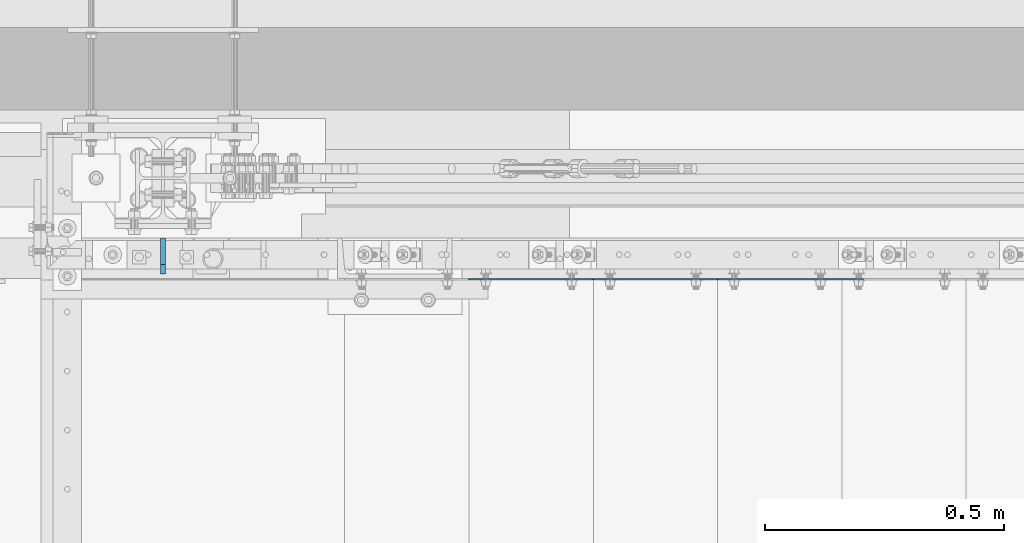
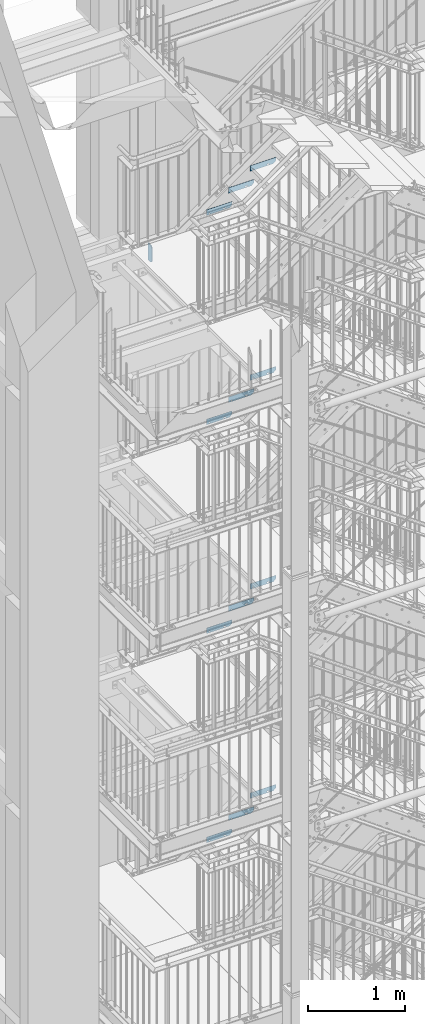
# One storey, part 194 of 831: 13 plates, 26 openings.
"""IFC2X3 building model written with IfcOpenShell, lengths in millimetres."""

from ifc_helpers import new_model, entity, si_unit, converted_unit, point, frame, frame_2d, origin, origin_with_axes, origin_2d_with_axis, place, context, project, spatial, polyline, circle_curve, line_curve, trimmed, segment, composite_curve, circle, outline, extrude, material, layer, layer_set, element, save


model = new_model("IFC2X3")

# Units and contexts
model_context = context("Model", 3, precision=1e-09, world=origin_with_axes())
ifc_project = project(units=[si_unit("LENGTHUNIT", "METRE", prefix="MILLI"), si_unit("AREAUNIT", "SQUARE_METRE"), si_unit("VOLUMEUNIT", "CUBIC_METRE"), converted_unit("PLANEANGLEUNIT", "DEGREE", entity("IfcPlaneAngleMeasure", 0.01745329), si_unit("PLANEANGLEUNIT", "RADIAN"), dimensions=[0, 0, 0, 0, 0, 0, 0])], contexts=[model_context])

# Site, building, storey
site_placement = place(None, origin_with_axes())
site = spatial("IfcSite", under=ifc_project, at=site_placement, Name="Site", CompositionType="ELEMENT")
building_placement = place(site_placement, origin_with_axes())
building = spatial("IfcBuilding", under=site, at=building_placement, Name="Struktur 1", CompositionType="ELEMENT")
storey_placement = place(building_placement, origin_with_axes())
storey = spatial("IfcBuildingStorey", under=building, at=storey_placement, Name="Default Storey", CompositionType="ELEMENT", Elevation=0.0)

# Plate, openings
ifc_material = material(Name="S235JR")
ifc_layer_1 = layer(ifc_material, 3.0)
ifc_layer_set_1 = layer_set([ifc_layer_1], Name="S235JR")
plate_1_placement = place(None, frame((6016.713402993, 7306.736971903, 10554.9285719), z_axis=(0.0, -1.0, 0.0), x_axis=(0.0, 0.0, -1.0)))
plate_1 = element("IfcPlate", 1, at=plate_1_placement, inside=storey, material=ifc_layer_set_1, Name="Grate_Step#16", ObjectType="Grate_Step#16", context=model_context, shape_type="SweptSolid", body=[
    extrude(outline(polyline([(0.0, 0.0), (70.0, 0.0), (70.0, 275.0), (40.0, 305.0), (0.0, 305.0), (0.0, 0.0)])), origin_with_axes(), (0.0, 0.0, 1.0), 3.0),
])
opening_1_placement = place(plate_1_placement, frame((55.0, 35.0, 3.5), z_axis=(0.0, 0.0, -1.0), x_axis=(0.0, 1.0, 0.0)))
element("IfcOpeningElement", 2, at=opening_1_placement, cuts=plate_1, ObjectType="Opening", context=model_context, shape_type="SweptSolid", body=[
    extrude(circle(Radius=7.001, at=origin_2d_with_axis()), origin(), (0.0, 0.0, 1.0), 4.0),
])
opening_2_placement = place(plate_1_placement, frame((55.0, 215.0, 3.5), z_axis=(0.0, 0.0, -1.0), x_axis=(0.0, 1.0, 0.0)))
element("IfcOpeningElement", 3, at=opening_2_placement, cuts=plate_1, ObjectType="Opening", context=model_context, shape_type="SweptSolid", body=[
    extrude(outline(composite_curve([segment(trimmed(line_curve((-9.5, -7.001), (1.0, 0.0), 19.0), [point((-9.5, -7.001))], [point((9.5, -7.001))], True, "CARTESIAN"), True, "CONTINUOUS"), segment(trimmed(circle_curve(frame_2d((9.5, 0.0), x_axis=(1.0, 0.0)), 7.001), [point((9.5, -7.001))], [point((9.5, 7.001))], True, "CARTESIAN"), True, "CONTINUOUS"), segment(trimmed(line_curve((9.5, 7.001), (-1.0, 0.0), 19.0), [point((9.5, 7.001))], [point((-9.5, 7.001))], True, "CARTESIAN"), True, "CONTINUOUS"), segment(trimmed(circle_curve(frame_2d((-9.5, 0.0), x_axis=(1.0, 0.0)), 7.001), [point((-9.5, 7.001))], [point((-9.5, -7.001))], True, "CARTESIAN"), True, "CONTINUOUS")], self_intersect=False)), origin(), (0.0, 0.0, 1.0), 4.0),
])

plate_2_placement = place(None, frame((5496.713402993, 7306.736971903, 10179.6428577), z_axis=(0.0, -1.0, 0.0), x_axis=(0.0, 0.0, -1.0)))
plate_2 = element("IfcPlate", 4, at=plate_2_placement, inside=storey, material=ifc_layer_set_1, Name="Grate_Step#2", ObjectType="Grate_Step#2", context=model_context, shape_type="SweptSolid", body=[
    extrude(outline(polyline([(0.0, 0.0), (70.0, 0.0), (70.0, 275.0), (40.0, 305.0), (0.0, 305.0), (0.0, 0.0)])), origin_with_axes(), (0.0, 0.0, 1.0), 3.0),
])
opening_3_placement = place(plate_2_placement, frame((55.0, 215.0, 3.5), z_axis=(0.0, 0.0, -1.0), x_axis=(0.0, 1.0, 0.0)))
element("IfcOpeningElement", 5, at=opening_3_placement, cuts=plate_2, ObjectType="Opening", context=model_context, shape_type="SweptSolid", body=[
    extrude(outline(composite_curve([segment(trimmed(line_curve((-9.5, -7.001), (1.0, 0.0), 19.0), [point((-9.5, -7.001))], [point((9.5, -7.001))], True, "CARTESIAN"), True, "CONTINUOUS"), segment(trimmed(circle_curve(frame_2d((9.5, 0.0), x_axis=(1.0, 0.0)), 7.001), [point((9.5, -7.001))], [point((9.5, 7.001))], True, "CARTESIAN"), True, "CONTINUOUS"), segment(trimmed(line_curve((9.5, 7.001), (-1.0, 0.0), 19.0), [point((9.5, 7.001))], [point((-9.5, 7.001))], True, "CARTESIAN"), True, "CONTINUOUS"), segment(trimmed(circle_curve(frame_2d((-9.5, 0.0), x_axis=(1.0, 0.0)), 7.001), [point((-9.5, 7.001))], [point((-9.5, -7.001))], True, "CARTESIAN"), True, "CONTINUOUS")], self_intersect=False)), origin(), (0.0, 0.0, 1.0), 4.0),
])
opening_4_placement = place(plate_2_placement, frame((55.0, 35.0, 3.5), z_axis=(0.0, 0.0, -1.0), x_axis=(0.0, 1.0, 0.0)))
element("IfcOpeningElement", 6, at=opening_4_placement, cuts=plate_2, ObjectType="Opening", context=model_context, shape_type="SweptSolid", body=[
    extrude(circle(Radius=7.001, at=origin_2d_with_axis()), origin(), (0.0, 0.0, 1.0), 4.0),
])

plate_3_placement = place(None, frame((5756.713402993, 7306.736971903, 10367.2857148), z_axis=(0.0, -1.0, 0.0), x_axis=(0.0, 0.0, -1.0)))
plate_3 = element("IfcPlate", 7, at=plate_3_placement, inside=storey, material=ifc_layer_set_1, Name="Grate_Step#9", ObjectType="Grate_Step#9", context=model_context, shape_type="SweptSolid", body=[
    extrude(outline(polyline([(0.0, 0.0), (70.0, 0.0), (70.0, 275.0), (40.0, 305.0), (0.0, 305.0), (0.0, 0.0)])), origin_with_axes(), (0.0, 0.0, 1.0), 3.0),
])
opening_5_placement = place(plate_3_placement, frame((55.0, 215.0, 3.5), z_axis=(0.0, 0.0, -1.0), x_axis=(0.0, 1.0, 0.0)))
element("IfcOpeningElement", 8, at=opening_5_placement, cuts=plate_3, ObjectType="Opening", context=model_context, shape_type="SweptSolid", body=[
    extrude(outline(composite_curve([segment(trimmed(line_curve((-9.5, -7.001), (1.0, 0.0), 19.0), [point((-9.5, -7.001))], [point((9.5, -7.001))], True, "CARTESIAN"), True, "CONTINUOUS"), segment(trimmed(circle_curve(frame_2d((9.5, 0.0), x_axis=(1.0, 0.0)), 7.001), [point((9.5, -7.001))], [point((9.5, 7.001))], True, "CARTESIAN"), True, "CONTINUOUS"), segment(trimmed(line_curve((9.5, 7.001), (-1.0, 0.0), 19.0), [point((9.5, 7.001))], [point((-9.5, 7.001))], True, "CARTESIAN"), True, "CONTINUOUS"), segment(trimmed(circle_curve(frame_2d((-9.5, 0.0), x_axis=(1.0, 0.0)), 7.001), [point((-9.5, 7.001))], [point((-9.5, -7.001))], True, "CARTESIAN"), True, "CONTINUOUS")], self_intersect=False)), origin(), (0.0, 0.0, 1.0), 4.0),
])
opening_6_placement = place(plate_3_placement, frame((55.0, 35.0, 3.5), z_axis=(0.0, 0.0, -1.0), x_axis=(0.0, 1.0, 0.0)))
element("IfcOpeningElement", 9, at=opening_6_placement, cuts=plate_3, ObjectType="Opening", context=model_context, shape_type="SweptSolid", body=[
    extrude(circle(Radius=7.001, at=origin_2d_with_axis()), origin(), (0.0, 0.0, 1.0), 4.0),
])

plate_4_placement = place(None, frame((6016.713402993, 7306.736971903, 7924.0), z_axis=(0.0, -1.0, 0.0), x_axis=(0.0, 0.0, -1.0)))
plate_4 = element("IfcPlate", 10, at=plate_4_placement, inside=storey, material=ifc_layer_set_1, Name="Grate_Step#16", ObjectType="Grate_Step#16", context=model_context, shape_type="SweptSolid", body=[
    extrude(outline(polyline([(0.0, 0.0), (70.0, 0.0), (70.0, 275.0), (40.0, 305.0), (0.0, 305.0), (0.0, 0.0)])), origin_with_axes(), (0.0, 0.0, 1.0), 3.0),
])
opening_7_placement = place(plate_4_placement, frame((55.0, 215.0, 3.5), z_axis=(0.0, 0.0, -1.0), x_axis=(0.0, 1.0, 0.0)))
element("IfcOpeningElement", 11, at=opening_7_placement, cuts=plate_4, ObjectType="Opening", context=model_context, shape_type="SweptSolid", body=[
    extrude(outline(composite_curve([segment(trimmed(line_curve((-9.5, -7.001), (1.0, 0.0), 19.0), [point((-9.5, -7.001))], [point((9.5, -7.001))], True, "CARTESIAN"), True, "CONTINUOUS"), segment(trimmed(circle_curve(frame_2d((9.5, 0.0), x_axis=(1.0, 0.0)), 7.001), [point((9.5, -7.001))], [point((9.5, 7.001))], True, "CARTESIAN"), True, "CONTINUOUS"), segment(trimmed(line_curve((9.5, 7.001), (-1.0, 0.0), 19.0), [point((9.5, 7.001))], [point((-9.5, 7.001))], True, "CARTESIAN"), True, "CONTINUOUS"), segment(trimmed(circle_curve(frame_2d((-9.5, 0.0), x_axis=(1.0, 0.0)), 7.001), [point((-9.5, 7.001))], [point((-9.5, -7.001))], True, "CARTESIAN"), True, "CONTINUOUS")], self_intersect=False)), origin(), (0.0, 0.0, 1.0), 4.0),
])
opening_8_placement = place(plate_4_placement, frame((55.0, 35.0, 3.5), z_axis=(0.0, 0.0, -1.0), x_axis=(0.0, 1.0, 0.0)))
element("IfcOpeningElement", 12, at=opening_8_placement, cuts=plate_4, ObjectType="Opening", context=model_context, shape_type="SweptSolid", body=[
    extrude(circle(Radius=7.001, at=origin_2d_with_axis()), origin(), (0.0, 0.0, 1.0), 4.0),
])

plate_5_placement = place(None, frame((5496.713402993, 7306.736971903, 7548.0), z_axis=(0.0, -1.0, 0.0), x_axis=(0.0, 0.0, -1.0)))
plate_5 = element("IfcPlate", 13, at=plate_5_placement, inside=storey, material=ifc_layer_set_1, Name="Grate_Step#2", ObjectType="Grate_Step#2", context=model_context, shape_type="SweptSolid", body=[
    extrude(outline(polyline([(0.0, 0.0), (70.0, 0.0), (70.0, 275.0), (40.0, 305.0), (0.0, 305.0), (0.0, 0.0)])), origin_with_axes(), (0.0, 0.0, 1.0), 3.0),
])
opening_9_placement = place(plate_5_placement, frame((55.0, 35.0, 3.5), z_axis=(0.0, 0.0, -1.0), x_axis=(0.0, 1.0, 0.0)))
element("IfcOpeningElement", 14, at=opening_9_placement, cuts=plate_5, ObjectType="Opening", context=model_context, shape_type="SweptSolid", body=[
    extrude(circle(Radius=7.001, at=origin_2d_with_axis()), origin(), (0.0, 0.0, 1.0), 4.0),
])
opening_10_placement = place(plate_5_placement, frame((55.0, 215.0, 3.5), z_axis=(0.0, 0.0, -1.0), x_axis=(0.0, 1.0, 0.0)))
element("IfcOpeningElement", 15, at=opening_10_placement, cuts=plate_5, ObjectType="Opening", context=model_context, shape_type="SweptSolid", body=[
    extrude(outline(composite_curve([segment(trimmed(line_curve((-9.5, -7.001), (1.0, 0.0), 19.0), [point((-9.5, -7.001))], [point((9.5, -7.001))], True, "CARTESIAN"), True, "CONTINUOUS"), segment(trimmed(circle_curve(frame_2d((9.5, 0.0), x_axis=(1.0, 0.0)), 7.001), [point((9.5, -7.001))], [point((9.5, 7.001))], True, "CARTESIAN"), True, "CONTINUOUS"), segment(trimmed(line_curve((9.5, 7.001), (-1.0, 0.0), 19.0), [point((9.5, 7.001))], [point((-9.5, 7.001))], True, "CARTESIAN"), True, "CONTINUOUS"), segment(trimmed(circle_curve(frame_2d((-9.5, 0.0), x_axis=(1.0, 0.0)), 7.001), [point((-9.5, 7.001))], [point((-9.5, -7.001))], True, "CARTESIAN"), True, "CONTINUOUS")], self_intersect=False)), origin(), (0.0, 0.0, 1.0), 4.0),
])

plate_6_placement = place(None, frame((5756.713402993, 7306.736971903, 7736.0), z_axis=(0.0, -1.0, 0.0), x_axis=(0.0, 0.0, -1.0)))
plate_6 = element("IfcPlate", 16, at=plate_6_placement, inside=storey, material=ifc_layer_set_1, Name="Grate_Step#9", ObjectType="Grate_Step#9", context=model_context, shape_type="SweptSolid", body=[
    extrude(outline(polyline([(0.0, 0.0), (70.0, 0.0), (70.0, 275.0), (40.0, 305.0), (0.0, 305.0), (0.0, 0.0)])), origin_with_axes(), (0.0, 0.0, 1.0), 3.0),
])
opening_11_placement = place(plate_6_placement, frame((55.0, 215.0, 3.5), z_axis=(0.0, 0.0, -1.0), x_axis=(0.0, 1.0, 0.0)))
element("IfcOpeningElement", 17, at=opening_11_placement, cuts=plate_6, ObjectType="Opening", context=model_context, shape_type="SweptSolid", body=[
    extrude(outline(composite_curve([segment(trimmed(line_curve((-9.5, -7.001), (1.0, 0.0), 19.0), [point((-9.5, -7.001))], [point((9.5, -7.001))], True, "CARTESIAN"), True, "CONTINUOUS"), segment(trimmed(circle_curve(frame_2d((9.5, 0.0), x_axis=(1.0, 0.0)), 7.001), [point((9.5, -7.001))], [point((9.5, 7.001))], True, "CARTESIAN"), True, "CONTINUOUS"), segment(trimmed(line_curve((9.5, 7.001), (-1.0, 0.0), 19.0), [point((9.5, 7.001))], [point((-9.5, 7.001))], True, "CARTESIAN"), True, "CONTINUOUS"), segment(trimmed(circle_curve(frame_2d((-9.5, 0.0), x_axis=(1.0, 0.0)), 7.001), [point((-9.5, 7.001))], [point((-9.5, -7.001))], True, "CARTESIAN"), True, "CONTINUOUS")], self_intersect=False)), origin(), (0.0, 0.0, 1.0), 4.0),
])
opening_12_placement = place(plate_6_placement, frame((55.0, 35.0, 3.5), z_axis=(0.0, 0.0, -1.0), x_axis=(0.0, 1.0, 0.0)))
element("IfcOpeningElement", 18, at=opening_12_placement, cuts=plate_6, ObjectType="Opening", context=model_context, shape_type="SweptSolid", body=[
    extrude(circle(Radius=7.001, at=origin_2d_with_axis()), origin(), (0.0, 0.0, 1.0), 4.0),
])

plate_7_placement = place(None, frame((6016.713402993, 7306.736971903, 13183.6428573), z_axis=(0.0, -1.0, 0.0), x_axis=(0.0, 0.0, -1.0)))
plate_7 = element("IfcPlate", 19, at=plate_7_placement, inside=storey, material=ifc_layer_set_1, Name="Grate_Step#16", ObjectType="Grate_Step#16", context=model_context, shape_type="SweptSolid", body=[
    extrude(outline(polyline([(0.0, 0.0), (70.0, 0.0), (70.0, 275.0), (40.0, 305.0), (0.0, 305.0), (0.0, 0.0)])), origin_with_axes(), (0.0, 0.0, 1.0), 3.0),
])
opening_13_placement = place(plate_7_placement, frame((55.0, 35.0, 3.5), z_axis=(0.0, 0.0, -1.0), x_axis=(0.0, 1.0, 0.0)))
element("IfcOpeningElement", 20, at=opening_13_placement, cuts=plate_7, ObjectType="Opening", context=model_context, shape_type="SweptSolid", body=[
    extrude(circle(Radius=7.001, at=origin_2d_with_axis()), origin(), (0.0, 0.0, 1.0), 4.0),
])
opening_14_placement = place(plate_7_placement, frame((55.0, 215.0, 3.5), z_axis=(0.0, 0.0, -1.0), x_axis=(0.0, 1.0, 0.0)))
element("IfcOpeningElement", 21, at=opening_14_placement, cuts=plate_7, ObjectType="Opening", context=model_context, shape_type="SweptSolid", body=[
    extrude(outline(composite_curve([segment(trimmed(line_curve((-9.5, -7.001), (1.0, 0.0), 19.0), [point((-9.5, -7.001))], [point((9.5, -7.001))], True, "CARTESIAN"), True, "CONTINUOUS"), segment(trimmed(circle_curve(frame_2d((9.5, 0.0), x_axis=(1.0, 0.0)), 7.001), [point((9.5, -7.001))], [point((9.5, 7.001))], True, "CARTESIAN"), True, "CONTINUOUS"), segment(trimmed(line_curve((9.5, 7.001), (-1.0, 0.0), 19.0), [point((9.5, 7.001))], [point((-9.5, 7.001))], True, "CARTESIAN"), True, "CONTINUOUS"), segment(trimmed(circle_curve(frame_2d((-9.5, 0.0), x_axis=(1.0, 0.0)), 7.001), [point((-9.5, 7.001))], [point((-9.5, -7.001))], True, "CARTESIAN"), True, "CONTINUOUS")], self_intersect=False)), origin(), (0.0, 0.0, 1.0), 4.0),
])

plate_8_placement = place(None, frame((5496.713402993, 7306.736971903, 12807.2142859), z_axis=(0.0, -1.0, 0.0), x_axis=(0.0, 0.0, -1.0)))
plate_8 = element("IfcPlate", 22, at=plate_8_placement, inside=storey, material=ifc_layer_set_1, Name="Grate_Step#2", ObjectType="Grate_Step#2", context=model_context, shape_type="SweptSolid", body=[
    extrude(outline(polyline([(0.0, 0.0), (70.0, 0.0), (70.0, 275.0), (40.0, 305.0), (0.0, 305.0), (0.0, 0.0)])), origin_with_axes(), (0.0, 0.0, 1.0), 3.0),
])
opening_15_placement = place(plate_8_placement, frame((55.0, 35.0, 3.5), z_axis=(0.0, 0.0, -1.0), x_axis=(0.0, 1.0, 0.0)))
element("IfcOpeningElement", 23, at=opening_15_placement, cuts=plate_8, ObjectType="Opening", context=model_context, shape_type="SweptSolid", body=[
    extrude(circle(Radius=7.001, at=origin_2d_with_axis()), origin(), (0.0, 0.0, 1.0), 4.0),
])
opening_16_placement = place(plate_8_placement, frame((55.0, 215.0, 3.5), z_axis=(0.0, 0.0, -1.0), x_axis=(0.0, 1.0, 0.0)))
element("IfcOpeningElement", 24, at=opening_16_placement, cuts=plate_8, ObjectType="Opening", context=model_context, shape_type="SweptSolid", body=[
    extrude(outline(composite_curve([segment(trimmed(line_curve((-9.5, -7.001), (1.0, 0.0), 19.0), [point((-9.5, -7.001))], [point((9.5, -7.001))], True, "CARTESIAN"), True, "CONTINUOUS"), segment(trimmed(circle_curve(frame_2d((9.5, 0.0), x_axis=(1.0, 0.0)), 7.001), [point((9.5, -7.001))], [point((9.5, 7.001))], True, "CARTESIAN"), True, "CONTINUOUS"), segment(trimmed(line_curve((9.5, 7.001), (-1.0, 0.0), 19.0), [point((9.5, 7.001))], [point((-9.5, 7.001))], True, "CARTESIAN"), True, "CONTINUOUS"), segment(trimmed(circle_curve(frame_2d((-9.5, 0.0), x_axis=(1.0, 0.0)), 7.001), [point((-9.5, 7.001))], [point((-9.5, -7.001))], True, "CARTESIAN"), True, "CONTINUOUS")], self_intersect=False)), origin(), (0.0, 0.0, 1.0), 4.0),
])

plate_9_placement = place(None, frame((5756.713402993, 7306.736971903, 12995.4285716), z_axis=(0.0, -1.0, 0.0), x_axis=(0.0, 0.0, -1.0)))
plate_9 = element("IfcPlate", 25, at=plate_9_placement, inside=storey, material=ifc_layer_set_1, Name="Grate_Step#9", ObjectType="Grate_Step#9", context=model_context, shape_type="SweptSolid", body=[
    extrude(outline(polyline([(0.0, 0.0), (70.0, 0.0), (70.0, 275.0), (40.0, 305.0), (0.0, 305.0), (0.0, 0.0)])), origin_with_axes(), (0.0, 0.0, 1.0), 3.0),
])
opening_17_placement = place(plate_9_placement, frame((55.0, 35.0, 3.5), z_axis=(0.0, 0.0, -1.0), x_axis=(0.0, 1.0, 0.0)))
element("IfcOpeningElement", 26, at=opening_17_placement, cuts=plate_9, ObjectType="Opening", context=model_context, shape_type="SweptSolid", body=[
    extrude(circle(Radius=7.001, at=origin_2d_with_axis()), origin(), (0.0, 0.0, 1.0), 4.0),
])
opening_18_placement = place(plate_9_placement, frame((55.0, 215.0, 3.5), z_axis=(0.0, 0.0, -1.0), x_axis=(0.0, 1.0, 0.0)))
element("IfcOpeningElement", 27, at=opening_18_placement, cuts=plate_9, ObjectType="Opening", context=model_context, shape_type="SweptSolid", body=[
    extrude(outline(composite_curve([segment(trimmed(line_curve((-9.5, -7.001), (1.0, 0.0), 19.0), [point((-9.5, -7.001))], [point((9.5, -7.001))], True, "CARTESIAN"), True, "CONTINUOUS"), segment(trimmed(circle_curve(frame_2d((9.5, 0.0), x_axis=(1.0, 0.0)), 7.001), [point((9.5, -7.001))], [point((9.5, 7.001))], True, "CARTESIAN"), True, "CONTINUOUS"), segment(trimmed(line_curve((9.5, 7.001), (-1.0, 0.0), 19.0), [point((9.5, 7.001))], [point((-9.5, 7.001))], True, "CARTESIAN"), True, "CONTINUOUS"), segment(trimmed(circle_curve(frame_2d((-9.5, 0.0), x_axis=(1.0, 0.0)), 7.001), [point((-9.5, 7.001))], [point((-9.5, -7.001))], True, "CARTESIAN"), True, "CONTINUOUS")], self_intersect=False)), origin(), (0.0, 0.0, 1.0), 4.0),
])

plate_10_placement = place(None, frame((6016.713402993, 7306.736971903, 15815.4285719), z_axis=(0.0, -1.0, 0.0), x_axis=(0.0, 0.0, -1.0)))
plate_10 = element("IfcPlate", 28, at=plate_10_placement, inside=storey, material=ifc_layer_set_1, Name="Grate_Step#16", ObjectType="Grate_Step#16", context=model_context, shape_type="SweptSolid", body=[
    extrude(outline(polyline([(0.0, 0.0), (70.0, 0.0), (70.0, 275.0), (40.0, 305.0), (0.0, 305.0), (0.0, 0.0)])), origin_with_axes(), (0.0, 0.0, 1.0), 3.0),
])
opening_19_placement = place(plate_10_placement, frame((55.0, 215.0, 3.5), z_axis=(0.0, 0.0, -1.0), x_axis=(0.0, 1.0, 0.0)))
element("IfcOpeningElement", 29, at=opening_19_placement, cuts=plate_10, ObjectType="Opening", context=model_context, shape_type="SweptSolid", body=[
    extrude(outline(composite_curve([segment(trimmed(line_curve((-9.5, -7.001), (1.0, 0.0), 19.0), [point((-9.5, -7.001))], [point((9.5, -7.001))], True, "CARTESIAN"), True, "CONTINUOUS"), segment(trimmed(circle_curve(frame_2d((9.5, 0.0), x_axis=(1.0, 0.0)), 7.001), [point((9.5, -7.001))], [point((9.5, 7.001))], True, "CARTESIAN"), True, "CONTINUOUS"), segment(trimmed(line_curve((9.5, 7.001), (-1.0, 0.0), 19.0), [point((9.5, 7.001))], [point((-9.5, 7.001))], True, "CARTESIAN"), True, "CONTINUOUS"), segment(trimmed(circle_curve(frame_2d((-9.5, 0.0), x_axis=(1.0, 0.0)), 7.001), [point((-9.5, 7.001))], [point((-9.5, -7.001))], True, "CARTESIAN"), True, "CONTINUOUS")], self_intersect=False)), origin(), (0.0, 0.0, 1.0), 4.0),
])
opening_20_placement = place(plate_10_placement, frame((55.0, 35.0, 3.5), z_axis=(0.0, 0.0, -1.0), x_axis=(0.0, 1.0, 0.0)))
element("IfcOpeningElement", 30, at=opening_20_placement, cuts=plate_10, ObjectType="Opening", context=model_context, shape_type="SweptSolid", body=[
    extrude(circle(Radius=7.001, at=origin_2d_with_axis()), origin(), (0.0, 0.0, 1.0), 4.0),
])

plate_11_placement = place(None, frame((5496.713402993, 7306.736971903, 15441.1428577), z_axis=(0.0, -1.0, 0.0), x_axis=(0.0, 0.0, -1.0)))
plate_11 = element("IfcPlate", 31, at=plate_11_placement, inside=storey, material=ifc_layer_set_1, Name="Grate_Step#2", ObjectType="Grate_Step#2", context=model_context, shape_type="SweptSolid", body=[
    extrude(outline(polyline([(0.0, 0.0), (70.0, 0.0), (70.0, 275.0), (40.0, 305.0), (0.0, 305.0), (0.0, 0.0)])), origin_with_axes(), (0.0, 0.0, 1.0), 3.0),
])
opening_21_placement = place(plate_11_placement, frame((55.0, 35.0, 3.5), z_axis=(0.0, 0.0, -1.0), x_axis=(0.0, 1.0, 0.0)))
element("IfcOpeningElement", 32, at=opening_21_placement, cuts=plate_11, ObjectType="Opening", context=model_context, shape_type="SweptSolid", body=[
    extrude(circle(Radius=7.001, at=origin_2d_with_axis()), origin(), (0.0, 0.0, 1.0), 4.0),
])
opening_22_placement = place(plate_11_placement, frame((55.0, 215.0, 3.5), z_axis=(0.0, 0.0, -1.0), x_axis=(0.0, 1.0, 0.0)))
element("IfcOpeningElement", 33, at=opening_22_placement, cuts=plate_11, ObjectType="Opening", context=model_context, shape_type="SweptSolid", body=[
    extrude(outline(composite_curve([segment(trimmed(line_curve((-9.5, -7.001), (1.0, 0.0), 19.0), [point((-9.5, -7.001))], [point((9.5, -7.001))], True, "CARTESIAN"), True, "CONTINUOUS"), segment(trimmed(circle_curve(frame_2d((9.5, 0.0), x_axis=(1.0, 0.0)), 7.001), [point((9.5, -7.001))], [point((9.5, 7.001))], True, "CARTESIAN"), True, "CONTINUOUS"), segment(trimmed(line_curve((9.5, 7.001), (-1.0, 0.0), 19.0), [point((9.5, 7.001))], [point((-9.5, 7.001))], True, "CARTESIAN"), True, "CONTINUOUS"), segment(trimmed(circle_curve(frame_2d((-9.5, 0.0), x_axis=(1.0, 0.0)), 7.001), [point((-9.5, 7.001))], [point((-9.5, -7.001))], True, "CARTESIAN"), True, "CONTINUOUS")], self_intersect=False)), origin(), (0.0, 0.0, 1.0), 4.0),
])

plate_12_placement = place(None, frame((5756.713402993, 7306.736971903, 15628.2857148), z_axis=(0.0, -1.0, 0.0), x_axis=(0.0, 0.0, -1.0)))
plate_12 = element("IfcPlate", 34, at=plate_12_placement, inside=storey, material=ifc_layer_set_1, Name="Grate_Step#9", ObjectType="Grate_Step#9", context=model_context, shape_type="SweptSolid", body=[
    extrude(outline(polyline([(0.0, 0.0), (70.0, 0.0), (70.0, 275.0), (40.0, 305.0), (0.0, 305.0), (0.0, 0.0)])), origin_with_axes(), (0.0, 0.0, 1.0), 3.0),
])
opening_23_placement = place(plate_12_placement, frame((55.0, 35.0, 3.5), z_axis=(0.0, 0.0, -1.0), x_axis=(0.0, 1.0, 0.0)))
element("IfcOpeningElement", 35, at=opening_23_placement, cuts=plate_12, ObjectType="Opening", context=model_context, shape_type="SweptSolid", body=[
    extrude(circle(Radius=7.001, at=origin_2d_with_axis()), origin(), (0.0, 0.0, 1.0), 4.0),
])
opening_24_placement = place(plate_12_placement, frame((55.0, 215.0, 3.5), z_axis=(0.0, 0.0, -1.0), x_axis=(0.0, 1.0, 0.0)))
element("IfcOpeningElement", 36, at=opening_24_placement, cuts=plate_12, ObjectType="Opening", context=model_context, shape_type="SweptSolid", body=[
    extrude(outline(composite_curve([segment(trimmed(line_curve((-9.5, -7.001), (1.0, 0.0), 19.0), [point((-9.5, -7.001))], [point((9.5, -7.001))], True, "CARTESIAN"), True, "CONTINUOUS"), segment(trimmed(circle_curve(frame_2d((9.5, 0.0), x_axis=(1.0, 0.0)), 7.001), [point((9.5, -7.001))], [point((9.5, 7.001))], True, "CARTESIAN"), True, "CONTINUOUS"), segment(trimmed(line_curve((9.5, 7.001), (-1.0, 0.0), 19.0), [point((9.5, 7.001))], [point((-9.5, 7.001))], True, "CARTESIAN"), True, "CONTINUOUS"), segment(trimmed(circle_curve(frame_2d((-9.5, 0.0), x_axis=(1.0, 0.0)), 7.001), [point((-9.5, 7.001))], [point((-9.5, -7.001))], True, "CARTESIAN"), True, "CONTINUOUS")], self_intersect=False)), origin(), (0.0, 0.0, 1.0), 4.0),
])

ifc_layer_2 = layer(ifc_material, 10.0)
ifc_layer_set_2 = layer_set([ifc_layer_2], Name="S235JR")
plate_13_placement = place(None, frame((4861.713402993, 7316.236971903, 15196.855161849), z_axis=(-1.0, 0.0, 0.0), x_axis=(0.0, 0.996815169, 0.079746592)))
plate_13 = element("IfcPlate", 37, at=plate_13_placement, inside=storey, material=ifc_layer_set_2, Name="Stiffener#1", ObjectType="Stiffener#1", context=model_context, shape_type="SweptSolid", body=[
    extrude(outline(polyline([(0.0, 0.0), (75.239625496, 0.0), (57.877952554, 217.017159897), (-16.404697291, 205.05517107), (0.0, 0.0)])), origin_with_axes(), (0.0, 0.0, 1.0), 10.0),
])
opening_25_placement = place(plate_13_placement, frame((0.0, 0.0, -0.01), z_axis=(0.0, 0.0, 1.0), x_axis=(1.0, 0.0, 0.0)))
element("IfcOpeningElement", 38, at=opening_25_placement, cuts=plate_13, ObjectType="Opening", context=model_context, shape_type="SweptSolid", body=[
    extrude(outline(polyline([(-16.404697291, 205.05517107), (-14.809765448, 185.118867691), (3.34092195, 208.23487558), (-16.404697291, 205.05517107)])), origin(), (0.0, 0.0, 1.0), 10.02),
])
opening_26_placement = place(plate_13_placement, frame((0.0, 0.0, -0.01), z_axis=(0.0, 0.0, 1.0), x_axis=(1.0, 0.0, 0.0)))
element("IfcOpeningElement", 39, at=opening_26_placement, cuts=plate_13, ObjectType="Opening", context=model_context, shape_type="SweptSolid", body=[
    extrude(outline(polyline([(0.0, 0.0), (20.0, 0.0), (-1.594931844, 19.936303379), (0.0, 0.0)])), origin(), (0.0, 0.0, 1.0), 10.02),
])

save(model, "model.ifc")
